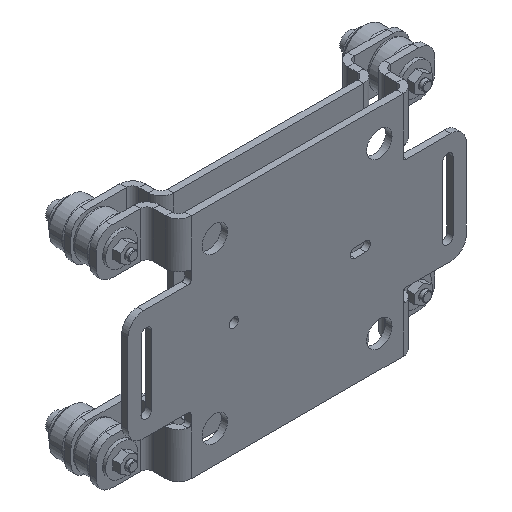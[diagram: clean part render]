
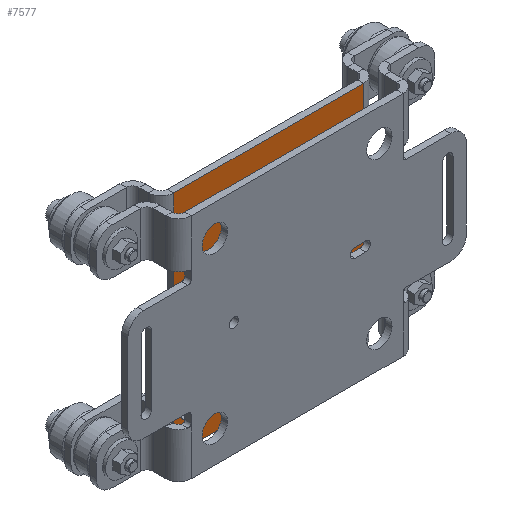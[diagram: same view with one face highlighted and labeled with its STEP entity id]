
A CAD part, isometric view. The second image highlights one B-rep face of the part: STEP entity #7577.
In plain terms, the highlighted planar face has unit normal (0, -1, 0).
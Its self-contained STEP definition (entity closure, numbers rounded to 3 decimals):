
#6106=DIRECTION('',(0.,0.,-1.));
#6107=VECTOR('',#6106,43.4);
#6108=CARTESIAN_POINT('',(30.,0.,21.7));
#6109=LINE('',#6108,#6107);
#6110=DIRECTION('',(-1.,0.,0.));
#6111=VECTOR('',#6110,60.);
#6112=CARTESIAN_POINT('',(30.,0.,-36.));
#6113=LINE('',#6112,#6111);
#6114=DIRECTION('',(0.,0.,1.));
#6115=VECTOR('',#6114,43.4);
#6116=CARTESIAN_POINT('',(-30.,0.,-21.7));
#6117=LINE('',#6116,#6115);
#6118=DIRECTION('',(1.,0.,0.));
#6119=VECTOR('',#6118,60.);
#6120=CARTESIAN_POINT('',(-30.,0.,36.));
#6121=LINE('',#6120,#6119);
#6122=CARTESIAN_POINT('',(26.,0.,-26.));
#6123=DIRECTION('',(0.,1.,0.));
#6124=DIRECTION('',(1.,0.,0.));
#6125=AXIS2_PLACEMENT_3D('',#6122,#6123,#6124);
#6127=CARTESIAN_POINT('',(26.,0.,-26.));
#6128=DIRECTION('',(0.,1.,0.));
#6129=DIRECTION('',(-1.,0.,0.));
#6130=AXIS2_PLACEMENT_3D('',#6127,#6128,#6129);
#6132=CARTESIAN_POINT('',(-26.,0.,26.));
#6133=DIRECTION('',(0.,1.,0.));
#6134=DIRECTION('',(1.,0.,0.));
#6135=AXIS2_PLACEMENT_3D('',#6132,#6133,#6134);
#6137=CARTESIAN_POINT('',(-26.,0.,26.));
#6138=DIRECTION('',(0.,1.,0.));
#6139=DIRECTION('',(-1.,0.,0.));
#6140=AXIS2_PLACEMENT_3D('',#6137,#6138,#6139);
#6142=CARTESIAN_POINT('',(-26.,0.,-26.));
#6143=DIRECTION('',(0.,1.,0.));
#6144=DIRECTION('',(1.,0.,0.));
#6145=AXIS2_PLACEMENT_3D('',#6142,#6143,#6144);
#6147=CARTESIAN_POINT('',(-26.,0.,-26.));
#6148=DIRECTION('',(0.,1.,0.));
#6149=DIRECTION('',(-1.,0.,0.));
#6150=AXIS2_PLACEMENT_3D('',#6147,#6148,#6149);
#6152=CARTESIAN_POINT('',(26.,0.,26.));
#6153=DIRECTION('',(0.,1.,0.));
#6154=DIRECTION('',(1.,0.,0.));
#6155=AXIS2_PLACEMENT_3D('',#6152,#6153,#6154);
#6157=CARTESIAN_POINT('',(26.,0.,26.));
#6158=DIRECTION('',(0.,1.,0.));
#6159=DIRECTION('',(-1.,0.,0.));
#6160=AXIS2_PLACEMENT_3D('',#6157,#6158,#6159);
#6179=DIRECTION('',(0.,0.,-1.));
#6180=VECTOR('',#6179,14.3);
#6181=CARTESIAN_POINT('',(30.,0.,-21.7));
#6182=LINE('',#6181,#6180);
#6457=DIRECTION('',(0.,0.,-1.));
#6458=VECTOR('',#6457,14.3);
#6459=CARTESIAN_POINT('',(30.,0.,36.));
#6460=LINE('',#6459,#6458);
#6491=DIRECTION('',(0.,0.,1.));
#6492=VECTOR('',#6491,14.3);
#6493=CARTESIAN_POINT('',(-30.,0.,21.7));
#6494=LINE('',#6493,#6492);
#6665=DIRECTION('',(0.,0.,1.));
#6666=VECTOR('',#6665,14.3);
#6667=CARTESIAN_POINT('',(-30.,0.,-36.));
#6668=LINE('',#6667,#6666);
#7242=CARTESIAN_POINT('',(30.,0.,-36.));
#7243=CARTESIAN_POINT('',(-30.,0.,-36.));
#7244=VERTEX_POINT('',#7242);
#7245=VERTEX_POINT('',#7243);
#7246=CARTESIAN_POINT('',(-30.,0.,36.));
#7247=CARTESIAN_POINT('',(30.,0.,36.));
#7248=VERTEX_POINT('',#7246);
#7249=VERTEX_POINT('',#7247);
#7266=CARTESIAN_POINT('',(-30.,0.,-21.7));
#7267=VERTEX_POINT('',#7266);
#7294=CARTESIAN_POINT('',(30.,0.,21.7));
#7295=VERTEX_POINT('',#7294);
#7314=CARTESIAN_POINT('',(-30.,0.,21.7));
#7315=VERTEX_POINT('',#7314);
#7334=CARTESIAN_POINT('',(30.,0.,-21.7));
#7335=VERTEX_POINT('',#7334);
#7434=CARTESIAN_POINT('',(27.65,0.,-26.));
#7435=CARTESIAN_POINT('',(24.35,0.,-26.));
#7436=VERTEX_POINT('',#7434);
#7437=VERTEX_POINT('',#7435);
#7438=CARTESIAN_POINT('',(-24.35,0.,26.));
#7439=CARTESIAN_POINT('',(-27.65,0.,26.));
#7440=VERTEX_POINT('',#7438);
#7441=VERTEX_POINT('',#7439);
#7514=CARTESIAN_POINT('',(-24.25,0.,-26.));
#7515=CARTESIAN_POINT('',(-27.75,0.,-26.));
#7516=VERTEX_POINT('',#7514);
#7517=VERTEX_POINT('',#7515);
#7518=CARTESIAN_POINT('',(27.75,0.,26.));
#7519=CARTESIAN_POINT('',(24.25,0.,26.));
#7520=VERTEX_POINT('',#7518);
#7521=VERTEX_POINT('',#7519);
#7530=CARTESIAN_POINT('',(0.,0.,0.));
#7531=DIRECTION('',(0.,1.,0.));
#7532=DIRECTION('',(1.,0.,0.));
#7533=AXIS2_PLACEMENT_3D('',#7530,#7531,#7532);
#7534=PLANE('',#7533);
#7536=ORIENTED_EDGE('',*,*,#7535,.T.);
#7538=ORIENTED_EDGE('',*,*,#7537,.T.);
#7540=ORIENTED_EDGE('',*,*,#7539,.T.);
#7542=ORIENTED_EDGE('',*,*,#7541,.T.);
#7544=ORIENTED_EDGE('',*,*,#7543,.T.);
#7546=ORIENTED_EDGE('',*,*,#7545,.T.);
#7548=ORIENTED_EDGE('',*,*,#7547,.T.);
#7550=ORIENTED_EDGE('',*,*,#7549,.T.);
#7551=EDGE_LOOP('',(#7536,#7538,#7540,#7542,#7544,#7546,#7548,#7550));
#7552=FACE_OUTER_BOUND('',#7551,.F.);
#7554=ORIENTED_EDGE('',*,*,#7553,.F.);
#7556=ORIENTED_EDGE('',*,*,#7555,.F.);
#7557=EDGE_LOOP('',(#7554,#7556));
#7558=FACE_BOUND('',#7557,.F.);
#7560=ORIENTED_EDGE('',*,*,#7559,.F.);
#7562=ORIENTED_EDGE('',*,*,#7561,.F.);
#7563=EDGE_LOOP('',(#7560,#7562));
#7564=FACE_BOUND('',#7563,.F.);
#7566=ORIENTED_EDGE('',*,*,#7565,.F.);
#7568=ORIENTED_EDGE('',*,*,#7567,.F.);
#7569=EDGE_LOOP('',(#7566,#7568));
#7570=FACE_BOUND('',#7569,.F.);
#7572=ORIENTED_EDGE('',*,*,#7571,.F.);
#7574=ORIENTED_EDGE('',*,*,#7573,.F.);
#7575=EDGE_LOOP('',(#7572,#7574));
#7576=FACE_BOUND('',#7575,.F.);
#7577=ADVANCED_FACE('',(#7552,#7558,#7564,#7570,#7576),#7534,.F.);
#6126=CIRCLE('',#6125,1.65);
#6131=CIRCLE('',#6130,1.65);
#6136=CIRCLE('',#6135,1.65);
#6141=CIRCLE('',#6140,1.65);
#6146=CIRCLE('',#6145,1.75);
#6151=CIRCLE('',#6150,1.75);
#6156=CIRCLE('',#6155,1.75);
#6161=CIRCLE('',#6160,1.75);
#7535=EDGE_CURVE('',#7295,#7335,#6109,.T.);
#7537=EDGE_CURVE('',#7335,#7244,#6182,.T.);
#7539=EDGE_CURVE('',#7244,#7245,#6113,.T.);
#7541=EDGE_CURVE('',#7245,#7267,#6668,.T.);
#7543=EDGE_CURVE('',#7267,#7315,#6117,.T.);
#7545=EDGE_CURVE('',#7315,#7248,#6494,.T.);
#7547=EDGE_CURVE('',#7248,#7249,#6121,.T.);
#7549=EDGE_CURVE('',#7249,#7295,#6460,.T.);
#7553=EDGE_CURVE('',#7436,#7437,#6126,.T.);
#7555=EDGE_CURVE('',#7437,#7436,#6131,.T.);
#7559=EDGE_CURVE('',#7440,#7441,#6136,.T.);
#7561=EDGE_CURVE('',#7441,#7440,#6141,.T.);
#7565=EDGE_CURVE('',#7516,#7517,#6146,.T.);
#7567=EDGE_CURVE('',#7517,#7516,#6151,.T.);
#7571=EDGE_CURVE('',#7520,#7521,#6156,.T.);
#7573=EDGE_CURVE('',#7521,#7520,#6161,.T.);
